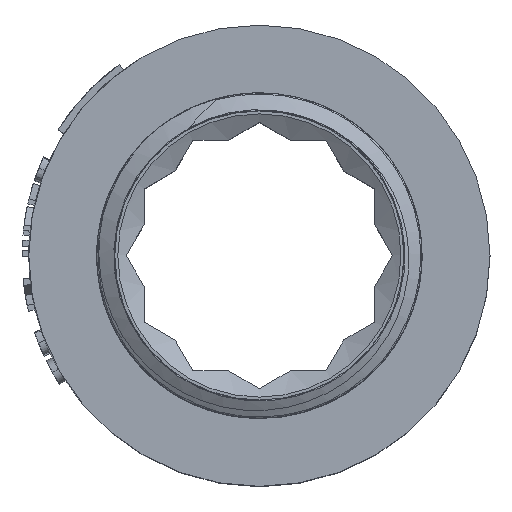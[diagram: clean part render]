
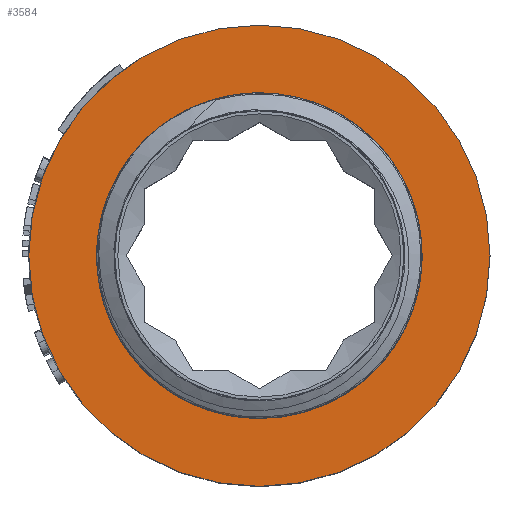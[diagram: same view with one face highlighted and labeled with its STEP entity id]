
A CAD part, top view. The second image highlights one B-rep face of the part: STEP entity #3584.
In plain terms, the highlighted planar face has unit normal (0, 0, 1).
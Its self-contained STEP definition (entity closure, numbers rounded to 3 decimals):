
#81=FACE_BOUND('',#830,.T.);
#453=PLANE('',#3817);
#616=FACE_OUTER_BOUND('',#829,.T.);
#829=EDGE_LOOP('',(#3103,#3104));
#830=EDGE_LOOP('',(#3105,#3106));
#1288=CIRCLE('',#3652,10.72);
#1291=CIRCLE('',#3655,10.72);
#1312=CIRCLE('',#3695,17.1);
#1313=CIRCLE('',#3696,17.1);
#1384=VERTEX_POINT('',#4521);
#1385=VERTEX_POINT('',#4522);
#1432=VERTEX_POINT('',#4769);
#1433=VERTEX_POINT('',#4770);
#1752=EDGE_CURVE('',#1384,#1385,#1288,.T.);
#1756=EDGE_CURVE('',#1385,#1384,#1291,.T.);
#1823=EDGE_CURVE('',#1432,#1433,#1312,.T.);
#1824=EDGE_CURVE('',#1433,#1432,#1313,.T.);
#3103=ORIENTED_EDGE('',*,*,#1823,.T.);
#3104=ORIENTED_EDGE('',*,*,#1824,.T.);
#3105=ORIENTED_EDGE('',*,*,#1752,.F.);
#3106=ORIENTED_EDGE('',*,*,#1756,.F.);
#3584=ADVANCED_FACE('',(#616,#81),#453,.T.);
#3652=AXIS2_PLACEMENT_3D('',#4523,#3876,#3877);
#3655=AXIS2_PLACEMENT_3D('',#4529,#3883,#3884);
#3695=AXIS2_PLACEMENT_3D('',#4771,#3999,#4000);
#3696=AXIS2_PLACEMENT_3D('',#4772,#4001,#4002);
#3817=AXIS2_PLACEMENT_3D('',#7316,#4388,#4389);
#3876=DIRECTION('center_axis',(0.,0.,1.));
#3877=DIRECTION('ref_axis',(1.,0.,0.));
#3883=DIRECTION('center_axis',(0.,0.,1.));
#3884=DIRECTION('ref_axis',(1.,0.,0.));
#3999=DIRECTION('center_axis',(0.,0.,1.));
#4000=DIRECTION('ref_axis',(1.,0.,0.));
#4001=DIRECTION('center_axis',(0.,0.,1.));
#4002=DIRECTION('ref_axis',(1.,0.,0.));
#4388=DIRECTION('center_axis',(0.,0.,1.));
#4389=DIRECTION('ref_axis',(1.,0.,0.));
#4521=CARTESIAN_POINT('',(0.,10.72,-12.));
#4522=CARTESIAN_POINT('',(0.,-10.72,-12.));
#4523=CARTESIAN_POINT('Origin',(0.,0.,-12.));
#4529=CARTESIAN_POINT('Origin',(0.,0.,-12.));
#4769=CARTESIAN_POINT('',(0.,-17.1,-12.));
#4770=CARTESIAN_POINT('',(0.,17.1,-12.));
#4771=CARTESIAN_POINT('Origin',(0.,0.,-12.));
#4772=CARTESIAN_POINT('Origin',(0.,0.,-12.));
#7316=CARTESIAN_POINT('Origin',(0.,-12.065,-12.));
